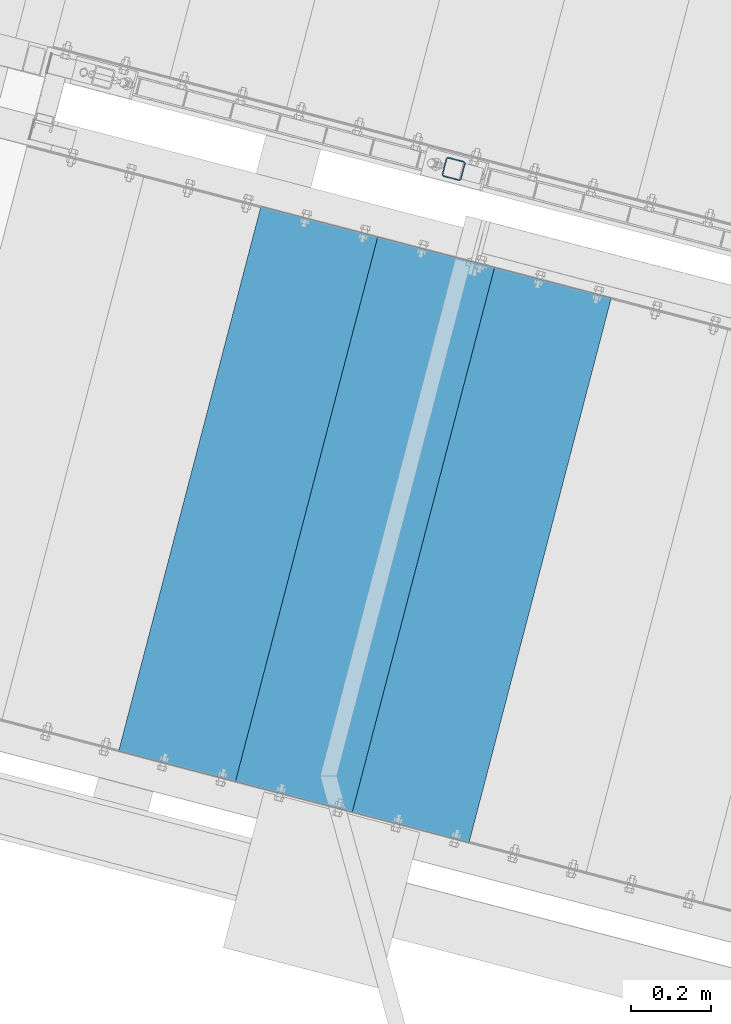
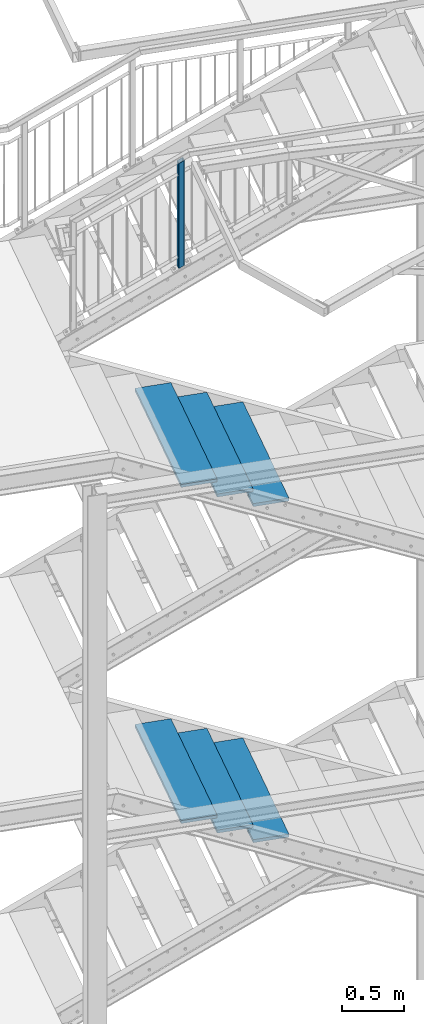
# One storey, part 35 of 169: 7 discrete accessories, 7 elements without a shape of their own.
"""IFC2X3 building model written with IfcOpenShell, lengths in millimetres."""

import ifcopenshell
import ifcopenshell.guid

model = None  # the IFC model being written
_history = None  # IfcOwnerHistory: only IFC2X3 demands one
_inside = {}  # id of a spatial element -> (the spatial element, [elements in it])
_under = {}  # id of a project, library or spatial element -> (it, [spatial elements below it])
_declared = {}  # id of a project -> (the project, [libraries it declares])
_typed = {}  # id of a type object -> (the type object, [elements of that type])
_made_of = {}  # id of a material, layer set ... -> (it, [elements and type objects made of it])


def new_model(schema):
    """Start an empty IFC model of exactly this schema.

    Asked for "IFC4X3", IfcOpenShell would pick the latest addendum, in which some entities
    have other attributes; the version numbers below select the first issue.
    IFC2X3 requires an IfcOwnerHistory on every rooted entity: one is made here for all.
    """
    global model, _history
    if schema == "IFC4X3":
        model = ifcopenshell.file(schema_version=(4, 3, 0, 0))
    else:
        model = ifcopenshell.file(schema=schema)
    _inside.clear()
    _under.clear()
    _declared.clear()
    _typed.clear()
    _made_of.clear()
    _history = None
    if model.schema == "IFC2X3":
        org = make("IfcOrganization", Name="unknown")
        user = make(
            "IfcPersonAndOrganization",
            ThePerson=make("IfcPerson", FamilyName="unknown"),
            TheOrganization=org,
        )
        app = make(
            "IfcApplication",
            ApplicationDeveloper=org,
            Version="unknown",
            ApplicationFullName="unknown",
            ApplicationIdentifier="unknown",
        )
        _history = make(
            "IfcOwnerHistory",
            OwningUser=user,
            OwningApplication=app,
            ChangeAction="ADDED",
            CreationDate=0,
        )
    return model


def make(cls, **values):
    """One entity of the class cls with the attributes given. An attribute that is None is left unset."""
    return model.create_entity(
        cls, **{name: value for name, value in values.items() if value is not None}
    )


def rooted(cls, **values):
    """An entity with a GlobalId (a new one), such as an element, a storey or a relation."""
    return make(cls, GlobalId=ifcopenshell.guid.new(), OwnerHistory=_history, **values)


def si_unit(unit_type, name, prefix=None):
    """IfcSIUnit, for example si_unit("LENGTHUNIT", "METRE", prefix="MILLI")."""
    return make("IfcSIUnit", UnitType=unit_type, Prefix=prefix, Name=name)


def assignment(units):
    """IfcUnitAssignment: the units of a project."""
    return None if units is None else make("IfcUnitAssignment", Units=units)


def point(xyz):
    """IfcCartesianPoint."""
    return None if xyz is None else make("IfcCartesianPoint", Coordinates=xyz)


def direction(xyz):
    """IfcDirection."""
    return None if xyz is None else make("IfcDirection", DirectionRatios=xyz)


def frame(location, z_axis=None, x_axis=None):
    """IfcAxis2Placement3D, a coordinate frame: its origin and axes. An axis left out is left unset."""
    return make(
        "IfcAxis2Placement3D",
        Location=point(location),
        Axis=direction(z_axis),
        RefDirection=direction(x_axis),
    )


def frame_2d(location, x_axis=None):
    """IfcAxis2Placement2D, a coordinate frame in the plane: its origin and x axis."""
    return make(
        "IfcAxis2Placement2D", Location=point(location), RefDirection=direction(x_axis)
    )


def origin_with_axes():
    """The frame at (0, 0, 0) with the z axis (0, 0, 1) and the x axis (1, 0, 0) written out."""
    return frame((0.0, 0.0, 0.0), z_axis=(0.0, 0.0, 1.0), x_axis=(1.0, 0.0, 0.0))


def origin_2d_with_axis():
    """The frame at (0, 0) in the plane with the x axis (1, 0) written out."""
    return frame_2d((0.0, 0.0), x_axis=(1.0, 0.0))


def place(relative_to, where):
    """IfcLocalPlacement: puts the frame where relative to a parent placement (None: the world)."""
    return make(
        "IfcLocalPlacement", PlacementRelTo=relative_to, RelativePlacement=where
    )


def context(
    kind, dimensions, precision=None, world=None, true_north=None, identifier=None
):
    """IfcGeometricRepresentationContext, for example the 3D "Model" context."""
    return make(
        "IfcGeometricRepresentationContext",
        ContextIdentifier=identifier,
        ContextType=kind,
        CoordinateSpaceDimension=dimensions,
        Precision=precision,
        WorldCoordinateSystem=world,
        TrueNorth=true_north,
    )


def subcontext(parent, identifier, kind, view, scale=None):
    """IfcGeometricRepresentationSubContext, for example "Body" below "Model"."""
    return make(
        "IfcGeometricRepresentationSubContext",
        ContextIdentifier=identifier,
        ContextType=kind,
        ParentContext=parent,
        TargetScale=scale,
        TargetView=view,
    )


def project(units=None, contexts=None):
    """IfcProject with its units and contexts."""
    return rooted(
        "IfcProject",
        Name="project",
        RepresentationContexts=contexts,
        UnitsInContext=assignment(units),
    )


def spatial(cls, under=None, at=None, **own):
    """A site, building, storey or space (cls), placed at a placement, below another one or the project."""
    s = rooted(cls, ObjectPlacement=at, **own)
    if under is not None:
        _under.setdefault(under.id(), (under, []))[1].append(s)
    return s


def polyline(points):
    """IfcPolyline through the points."""
    return make("IfcPolyline", Points=[point(p) for p in points])


def profile(cls, at=None, kind="AREA", **sizes):
    """A parametric profile (cls). Its sizes go by their IFC names, for example OverallWidth=200.0."""
    return make(cls, ProfileType=kind, Position=at, **sizes)


def hollow_rectangle(**sizes):
    """IfcRectangleHollowProfileDef."""
    return profile("IfcRectangleHollowProfileDef", **sizes)


def outline(outer, holes=None, kind="AREA"):
    """IfcArbitraryClosedProfileDef: a profile drawn as a closed curve; with holes, ...WithVoids."""
    if holes is None:
        return make("IfcArbitraryClosedProfileDef", ProfileType=kind, OuterCurve=outer)
    return make(
        "IfcArbitraryProfileDefWithVoids",
        ProfileType=kind,
        OuterCurve=outer,
        InnerCurves=holes,
    )


def extrude(swept, where, along, depth):
    """IfcExtrudedAreaSolid: the profile swept, set in the frame where, extruded along a direction by depth."""
    return make(
        "IfcExtrudedAreaSolid",
        SweptArea=swept,
        Position=where,
        ExtrudedDirection=direction(along),
        Depth=depth,
    )


def clip(a, b, op="DIFFERENCE"):
    """IfcBooleanClippingResult: the solid a cut by the half space b."""
    return make(
        "IfcBooleanClippingResult", Operator=op, FirstOperand=a, SecondOperand=b
    )


def halfspace(plane, agree):
    """IfcHalfSpaceSolid: all space on one side of the plane z = 0 of the frame plane."""
    return make(
        "IfcHalfSpaceSolid",
        BaseSurface=make("IfcPlane", Position=plane),
        AgreementFlag=agree,
    )


def shape(context_of_items, identifier, shape_type, items):
    """IfcShapeRepresentation: the items that make up one representation, for example the "Body"."""
    return make(
        "IfcShapeRepresentation",
        ContextOfItems=context_of_items,
        RepresentationIdentifier=identifier,
        RepresentationType=shape_type,
        Items=items,
    )


def material(Name=None, Category=None):
    """IfcMaterial."""
    return make("IfcMaterial", Name=Name, Category=Category)


def made_of(thing, what):
    """Note that an element or type object is made of a material, layer set ...; save() writes the relation."""
    if what is not None:
        _made_of.setdefault(what.id(), (what, []))[1].append(thing)
    return thing


def type_object(cls, material=None, **own):
    """A type object (cls), such as IfcWallType, which elements share."""
    return made_of(rooted(cls, **own), material)


def element(
    cls,
    number,
    at=None,
    inside=None,
    cuts=None,
    type_object=None,
    material=None,
    context=None,
    identifier="Body",
    shape_type=None,
    held_by="IfcProductDefinitionShape",
    body=None,
    shapes=None,
    **own,
):
    """One element of the class cls, such as IfcWall. Its Tag is "e" and its number.

    at: its placement. inside: the storey or other place that contains it. cuts: it is an
    opening in that element (IfcRelVoidsElement). A single representation is given by context,
    identifier, shape_type and body (its items); several are given by shapes. held_by: the class
    of the entity that holds the representations. save() writes the other relations.
    """
    e = rooted(cls, Tag="e%d" % number, ObjectPlacement=at, **own)
    if body is not None:
        shapes = [shape(context, identifier, shape_type, body)]
    if shapes is not None:
        e.Representation = make(held_by, Representations=shapes)
    if inside is not None:
        _inside.setdefault(inside.id(), (inside, []))[1].append(e)
    if cuts is not None:
        rooted(
            "IfcRelVoidsElement", RelatingBuildingElement=cuts, RelatedOpeningElement=e
        )
    if type_object is not None:
        _typed.setdefault(type_object.id(), (type_object, []))[1].append(e)
    return made_of(e, material)


def aggregate(whole, parts):
    """IfcRelAggregates: a whole, such as a stair, and the parts it consists of."""
    return rooted("IfcRelAggregates", RelatingObject=whole, RelatedObjects=parts)


def save(model, path):
    """Write the relations noted so far, then the file.

    IfcRelAggregates (storeys below a building ...), IfcRelContainedInSpatialStructure (elements
    in a storey), IfcRelDefinesByType, IfcRelAssociatesMaterial and IfcRelDeclares: one each for
    every whole, place, type object, material and project.
    """
    for whole, parts in _under.values():
        aggregate(whole, parts)
    for where, things in _inside.values():
        rooted(
            "IfcRelContainedInSpatialStructure",
            RelatedElements=things,
            RelatingStructure=where,
        )
    for kind, things in _typed.values():
        rooted("IfcRelDefinesByType", RelatedObjects=things, RelatingType=kind)
    for what, things in _made_of.values():
        rooted("IfcRelAssociatesMaterial", RelatedObjects=things, RelatingMaterial=what)
    for by, libraries in _declared.values():
        rooted("IfcRelDeclares", RelatingContext=by, RelatedDefinitions=libraries)
    model.write(path)


model = new_model("IFC2X3")

# Units and contexts
model_context = context("Model", 3, precision=1e-05, world=origin_with_axes())
body_context = subcontext(model_context, "Body", "Model", "MODEL_VIEW")
ifc_project = project(units=[si_unit("LENGTHUNIT", "METRE", prefix="MILLI"), si_unit("AREAUNIT", "SQUARE_METRE"), si_unit("VOLUMEUNIT", "CUBIC_METRE"), si_unit("MASSUNIT", "GRAM", prefix="KILO"), si_unit("TIMEUNIT", "SECOND"), si_unit("PLANEANGLEUNIT", "RADIAN"), si_unit("SOLIDANGLEUNIT", "STERADIAN"), si_unit("THERMODYNAMICTEMPERATUREUNIT", "DEGREE_CELSIUS"), si_unit("LUMINOUSINTENSITYUNIT", "LUMEN")], contexts=[model_context])

# Site, building, storey
site_placement = place(None, origin_with_axes())
site = spatial("IfcSite", under=ifc_project, at=site_placement, Name="Undefined", CompositionType="ELEMENT")
building_placement = place(site_placement, origin_with_axes())
building = spatial("IfcBuilding", under=site, at=building_placement, Name="Undefined", CompositionType="ELEMENT")
storey_placement = place(building_placement, origin_with_axes())
storey = spatial("IfcBuildingStorey", under=building, at=storey_placement, Name="Undefined", CompositionType="ELEMENT", Elevation=0.0)

# Assembly, discrete accessory
assembly_1_placement = place(storey_placement, origin_with_axes())
assembly_1 = element("IfcElementAssembly", 1, at=assembly_1_placement, inside=storey, Name="Steel Assembly", AssemblyPlace="NOTDEFINED", PredefinedType="RIGID_FRAME")
ifc_material_1 = material(Name="STEEL/S235")
discrete_accessory_type_1 = type_object("IfcDiscreteAccessoryType", Name="STANCHION")
discrete_accessory_1_placement = place(assembly_1_placement, frame((-26923.3026332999, 7108.5424990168, 12900.1970403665), z_axis=(3.4552000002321e-05, 0.000132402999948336, 0.999999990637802), x_axis=(0.252628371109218, 0.967563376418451, -0.000136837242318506)))
discrete_accessory_1 = element("IfcDiscreteAccessory", 2, at=discrete_accessory_1_placement, type_object=discrete_accessory_type_1, material=ifc_material_1, Name="STANCHION", ObjectType="SHS50*3", context=body_context, shape_type="Clipping", body=[
    clip(clip(extrude(hollow_rectangle(XDim=50.0, YDim=50.0, WallThickness=3.0, InnerFilletRadius=3.0, OuterFilletRadius=6.0, at=origin_2d_with_axis()), frame((-1.22213350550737e-12, -3.63797433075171e-12, 1069.31375677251), z_axis=(-2.54700353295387e-10, 0.0, -1.0), x_axis=(0.0, 1.0, 0.0)), (0.0, 0.0, 1.0), 1080.17), halfspace(frame((-3.05155225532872e-08, 25.0000002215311, 1031.54915017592), z_axis=(3.87066900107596e-10, 0.44721359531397, 0.89442719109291), x_axis=(1.0, 0.0, 0.0)), False)), halfspace(frame((999.999067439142, 2.68328154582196, 13.2372719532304), z_axis=(-0.00015298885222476, 0.447213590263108, 0.894427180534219), x_axis=(-7.64941891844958e-05, -0.894427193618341, 0.447213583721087)), True)),
])
aggregate(assembly_1, [discrete_accessory_1])

assembly_2_placement = place(storey_placement, origin_with_axes())
assembly_2 = element("IfcElementAssembly", 3, at=assembly_2_placement, inside=storey, Name="Steel Assembly", AssemblyPlace="NOTDEFINED", PredefinedType="RIGID_FRAME")
ifc_material_2 = material(Name="STEEL/S235JR")
discrete_accessory_type_2 = type_object("IfcDiscreteAccessoryType", Name="STOPNIE")
discrete_accessory_2_placement = place(assembly_2_placement, frame((-27256.932590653, 6978.48583179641, 11915.3215824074), z_axis=(-2.54700353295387e-10, 0.0, -1.0), x_axis=(-0.252694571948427, -0.96754609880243, 0.0)))
discrete_accessory_2 = element("IfcDiscreteAccessory", 4, at=discrete_accessory_2_placement, type_object=discrete_accessory_type_2, material=ifc_material_2, Name="STOPNIE", ObjectType="PL30*300", context=body_context, shape_type="SweptSolid", body=[
    extrude(outline(polyline([(1400.00000144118, 150.000000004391), (1400.0000014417, -149.999999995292), (3.45607986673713e-11, -150.00000000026), (-3.09228198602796e-11, 150.000000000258), (1400.00000144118, 150.000000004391)])), frame((1.81898940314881e-12, 3.72231275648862e-23, -15.0000000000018), z_axis=(0.0, 0.0, 1.0), x_axis=(1.0, 0.0, 0.0)), (0.0, 0.0, 1.0), 30.0),
])
aggregate(assembly_2, [discrete_accessory_2])

assembly_3_placement = place(storey_placement, origin_with_axes())
assembly_3 = element("IfcElementAssembly", 5, at=assembly_3_placement, inside=storey, Name="Steel Assembly", AssemblyPlace="NOTDEFINED", PredefinedType="RIGID_FRAME")
discrete_accessory_3_placement = place(assembly_3_placement, frame((-26966.6687575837, 6902.67745944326, 11765.3215824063), z_axis=(-2.54700353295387e-10, 0.0, -1.0), x_axis=(-0.252694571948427, -0.96754609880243, 0.0)))
discrete_accessory_3 = element("IfcDiscreteAccessory", 6, at=discrete_accessory_3_placement, type_object=discrete_accessory_type_2, material=ifc_material_2, Name="STOPNIE", ObjectType="PL30*300", context=body_context, shape_type="SweptSolid", body=[
    extrude(outline(polyline([(1400.00000144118, 150.000000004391), (1400.0000014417, -149.999999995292), (3.45607986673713e-11, -150.00000000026), (-3.09228198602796e-11, 150.000000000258), (1400.00000144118, 150.000000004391)])), frame((1.81898940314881e-12, 3.72231275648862e-23, -15.0000000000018), z_axis=(0.0, 0.0, 1.0), x_axis=(1.0, 0.0, 0.0)), (0.0, 0.0, 1.0), 30.0),
])
aggregate(assembly_3, [discrete_accessory_3])

assembly_4_placement = place(storey_placement, origin_with_axes())
assembly_4 = element("IfcElementAssembly", 7, at=assembly_4_placement, inside=storey, Name="Steel Assembly", AssemblyPlace="NOTDEFINED", PredefinedType="RIGID_FRAME")
discrete_accessory_4_placement = place(assembly_4_placement, frame((-26676.4049245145, 6826.86908709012, 11615.3215824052), z_axis=(-2.54700353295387e-10, 0.0, -1.0), x_axis=(-0.252694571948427, -0.96754609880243, 0.0)))
discrete_accessory_4 = element("IfcDiscreteAccessory", 8, at=discrete_accessory_4_placement, type_object=discrete_accessory_type_2, material=ifc_material_2, Name="STOPNIE", ObjectType="PL30*300", context=body_context, shape_type="SweptSolid", body=[
    extrude(outline(polyline([(1400.00000144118, 150.000000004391), (1400.0000014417, -149.999999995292), (3.45607986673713e-11, -150.00000000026), (-3.09228198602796e-11, 150.000000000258), (1400.00000144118, 150.000000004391)])), frame((1.81898940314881e-12, 3.72231275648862e-23, -15.0000000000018), z_axis=(0.0, 0.0, 1.0), x_axis=(1.0, 0.0, 0.0)), (0.0, 0.0, 1.0), 30.0),
])
aggregate(assembly_4, [discrete_accessory_4])

assembly_5_placement = place(storey_placement, origin_with_axes())
assembly_5 = element("IfcElementAssembly", 9, at=assembly_5_placement, inside=storey, Name="Steel Assembly", AssemblyPlace="NOTDEFINED", PredefinedType="RIGID_FRAME")
discrete_accessory_5_placement = place(assembly_5_placement, frame((-27257.0466680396, 6978.04891684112, 8615.32161330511), z_axis=(-2.54700353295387e-10, 0.0, -1.0), x_axis=(-0.252694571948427, -0.96754609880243, 0.0)))
discrete_accessory_5 = element("IfcDiscreteAccessory", 10, at=discrete_accessory_5_placement, type_object=discrete_accessory_type_2, material=ifc_material_2, Name="STOPNIE", ObjectType="PL30*300", context=body_context, shape_type="SweptSolid", body=[
    extrude(outline(polyline([(1400.00000144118, 150.000000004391), (1400.0000014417, -149.999999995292), (3.45607986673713e-11, -150.00000000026), (-3.09228198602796e-11, 150.000000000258), (1400.00000144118, 150.000000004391)])), frame((1.81898940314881e-12, 3.72231275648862e-23, -15.0000000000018), z_axis=(0.0, 0.0, 1.0), x_axis=(1.0, 0.0, 0.0)), (0.0, 0.0, 1.0), 30.0),
])
aggregate(assembly_5, [discrete_accessory_5])

assembly_6_placement = place(storey_placement, origin_with_axes())
assembly_6 = element("IfcElementAssembly", 11, at=assembly_6_placement, inside=storey, Name="Steel Assembly", AssemblyPlace="NOTDEFINED", PredefinedType="RIGID_FRAME")
discrete_accessory_6_placement = place(assembly_6_placement, frame((-26966.7828349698, 6902.24054448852, 8465.32161330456), z_axis=(-2.54700353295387e-10, 0.0, -1.0), x_axis=(-0.252694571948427, -0.96754609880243, 0.0)))
discrete_accessory_6 = element("IfcDiscreteAccessory", 12, at=discrete_accessory_6_placement, type_object=discrete_accessory_type_2, material=ifc_material_2, Name="STOPNIE", ObjectType="PL30*300", context=body_context, shape_type="SweptSolid", body=[
    extrude(outline(polyline([(1400.00000144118, 150.000000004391), (1400.0000014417, -149.999999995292), (3.45607986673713e-11, -150.00000000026), (-3.09228198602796e-11, 150.000000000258), (1400.00000144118, 150.000000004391)])), frame((1.81898940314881e-12, 3.72231275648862e-23, -15.0000000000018), z_axis=(0.0, 0.0, 1.0), x_axis=(1.0, 0.0, 0.0)), (0.0, 0.0, 1.0), 30.0),
])
aggregate(assembly_6, [discrete_accessory_6])

assembly_7_placement = place(storey_placement, origin_with_axes())
assembly_7 = element("IfcElementAssembly", 13, at=assembly_7_placement, inside=storey, Name="Steel Assembly", AssemblyPlace="NOTDEFINED", PredefinedType="RIGID_FRAME")
discrete_accessory_7_placement = place(assembly_7_placement, frame((-26676.5190019, 6826.43217213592, 8315.32161330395), z_axis=(-2.54700353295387e-10, 0.0, -1.0), x_axis=(-0.252694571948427, -0.96754609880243, 0.0)))
discrete_accessory_7 = element("IfcDiscreteAccessory", 14, at=discrete_accessory_7_placement, type_object=discrete_accessory_type_2, material=ifc_material_2, Name="STOPNIE", ObjectType="PL30*300", context=body_context, shape_type="SweptSolid", body=[
    extrude(outline(polyline([(1400.00000144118, 150.000000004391), (1400.0000014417, -149.999999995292), (3.45607986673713e-11, -150.00000000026), (-3.09228198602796e-11, 150.000000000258), (1400.00000144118, 150.000000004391)])), frame((1.81898940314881e-12, 3.72231275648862e-23, -15.0000000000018), z_axis=(0.0, 0.0, 1.0), x_axis=(1.0, 0.0, 0.0)), (0.0, 0.0, 1.0), 30.0),
])
aggregate(assembly_7, [discrete_accessory_7])

save(model, "model.ifc")
